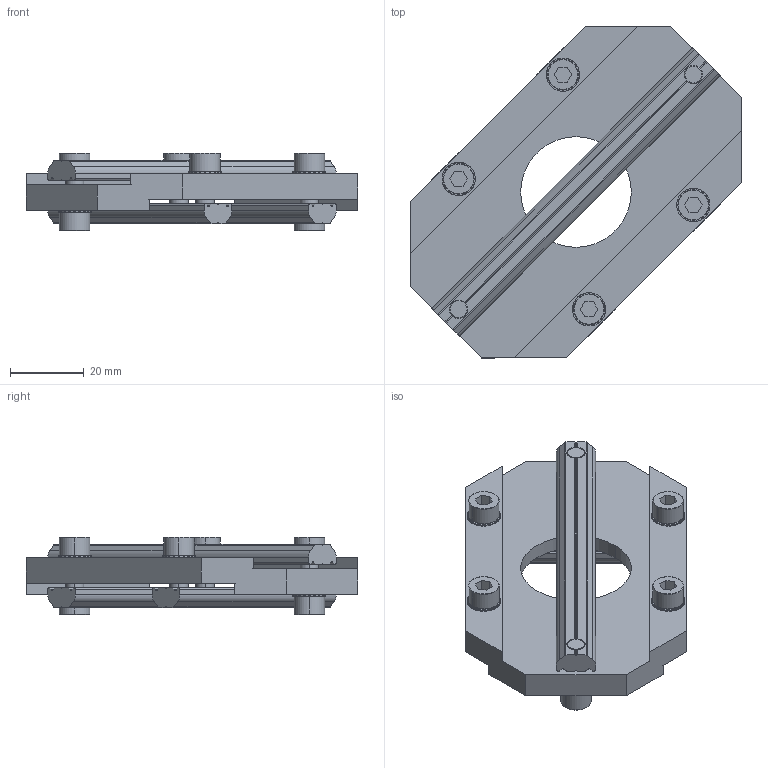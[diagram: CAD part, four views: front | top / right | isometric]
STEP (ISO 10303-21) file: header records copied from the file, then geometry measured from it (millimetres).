
FILE_DESCRIPTION (( 'STEP AP214' ), '1' );
FILE_NAME ('SMBA-4080T.STEP', '2022-12-08T02:39:10', ( '' ), ( '' ), 'SwSTEP 2.0', 'SolidWorks 2018', '' );
FILE_SCHEMA (( 'AUTOMOTIVE_DESIGN' ));
Length unit declared in the file: millimetre
Products named in the file (1): SMBA-4080T
Bounding box: 90 x 90 x 20.9 mm (x, y, z)
Volume: 38285.1 mm3; surface area: 24086.2 mm2
Topology: 16 solids, 16 shells, 1286 faces, 3762 edges, 2496 vertices
Faces by surface type: plane 1122, cylinder 128, cone 36
Entity records: 57613 total; most frequent: CARTESIAN_POINT 8121, ORIENTED_EDGE 7524, DIRECTION 7468, EDGE_CURVE 3762, AXIS2_PLACEMENT_3D 2515, VERTEX_POINT 2496, VECTOR 2438, LINE 2438
